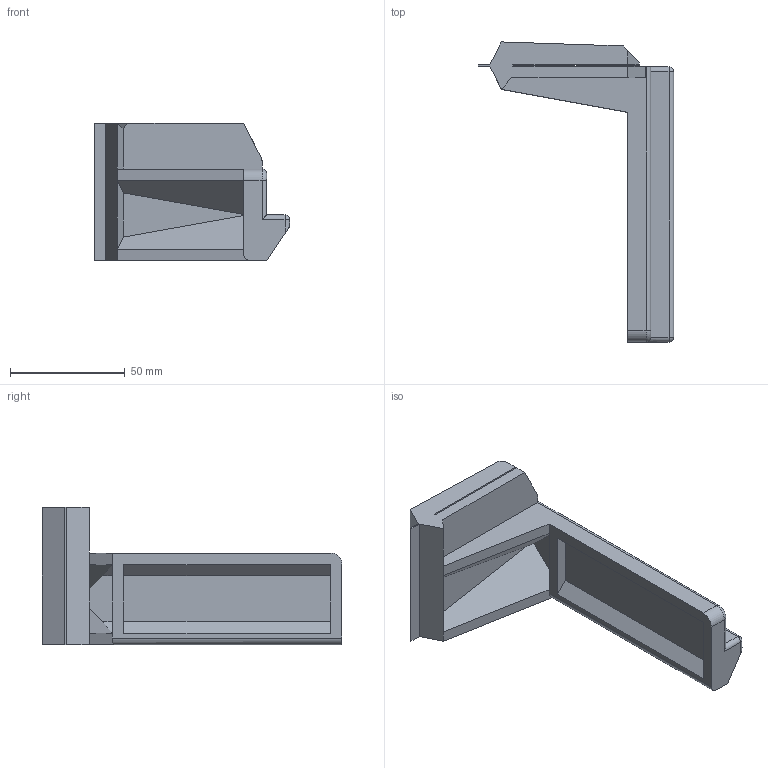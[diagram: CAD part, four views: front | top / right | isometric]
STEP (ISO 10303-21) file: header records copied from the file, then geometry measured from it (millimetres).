
FILE_DESCRIPTION(/* description */ (''),/* implementation_level */ '2;1');
FILE_NAME(/* name */ 'D:/3D Objects/250811のこ引きジグ/ノコ案内ジグパズル角材型.stp',/* time_stamp */ '2025-08-14T18:05:50+09:00',/* author */ (''),/* organization */ (''),/* preprocessor_version */ 'ST-DEVELOPER v15.2',/* originating_system */ 'Autodesk Translator Framework v2.0.0.5431',/* authorisation */ '');
FILE_SCHEMA (('AUTOMOTIVE_DESIGN { 1 0 10303 214 3 1 1 }'));
Length unit declared in the file: centimetre
Products named in the file (1): 250813lパズル角面取り2
Bounding box: 85 x 130.6 x 60 mm (x, y, z)
Volume: 100917.4 mm3; surface area: 33898.7 mm2
Topology: 1 solids, 1 shells, 63 faces, 157 edges, 97 vertices
Faces by surface type: plane 50, cylinder 10, sphere 2, torus 1
Entity records: 1846 total; most frequent: CARTESIAN_POINT 318, ORIENTED_EDGE 314, DIRECTION 305, EDGE_CURVE 157, LINE 137, VECTOR 137, VERTEX_POINT 97, AXIS2_PLACEMENT_3D 84
